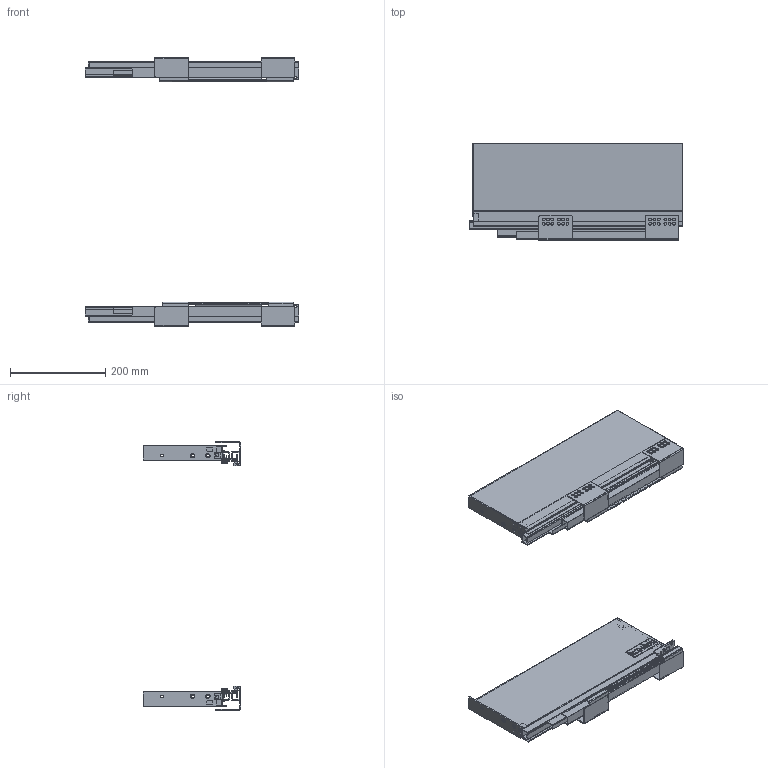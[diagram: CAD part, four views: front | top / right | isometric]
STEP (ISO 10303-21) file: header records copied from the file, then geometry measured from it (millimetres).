
FILE_DESCRIPTION(/* description */ (''),/* implementation_level */ '2;1');
FILE_NAME(/* name */ 'C:\Users\dmitruk\Documents\WORK\\X2\041D0410041F042004100412041B042F042E042904180415\X0\\SLIMBOX\SLIMBOX\SLIMBOX H175 L-450.stp',/* time_stamp */ '2022-04-19T17:18:37+03:00',/* author */ ('dmitruk'),/* organization */ ('AKS'),/* preprocessor_version */ 'ST-DEVELOPER v16.5',/* originating_system */ 'Autodesk Inventor 2017',/* authorisation */ '');
FILE_SCHEMA (('AUTOMOTIVE_DESIGN { 1 0 10303 214 3 1 1 }'));
Length unit declared in the file: millimetre
Products named in the file (13): SLIMBOX 90 мм правый; Боковина SLIMBOX _2; Направляющие \X2\0441043A
0440044B0442043E0433043E\X0\ монтажа \X2\043F
043E043B043D043E0433043E\X0\ \X2\0432044B04340432043804360435043D0438044F
\X0\ SLIMBOX-01; CR SLIMBOX-450; DR SLIMBOX; Крепление \X2\04440430
0441043004340430\X0\ SLIMBOX прав; CR SLIMBOX-500; DL SLIMBOX; Крепление \X2\04440430
0441043004340430\X0\ SLIMBOX лев; slim DW; Крепление к 
фасаду; Заглушка SLIMBOX; Крепление к 
фасаду 175
Assembly tree (16 placements, depth 3):
  SLIMBOX 90 мм правый
    Боковина SLIMBOX _2
    Направляющие \X2\0441043A
0440044B0442043E0433043E\X0\ монтажа \X2\043F
043E043B043D043E0433043E\X0\ \X2\0432044B04340432043804360435043D0438044F
\X0\ SLIMBOX-01
      CR SLIMBOX-450
      DR SLIMBOX
      slim DW  x2
      Крепление \X2\04440430
0441043004340430\X0\ SLIMBOX прав
      CR SLIMBOX-500
      DL SLIMBOX
      Крепление \X2\04440430
0441043004340430\X0\ SLIMBOX лев
    Крепление к 
фасаду  x2
    Заглушка SLIMBOX  x2
    Крепление к 
фасаду 175  x2
Bounding box: 450 x 204.5 x 564 mm (x, y, z)
Volume: 697348.2 mm3; surface area: 1052431.2 mm2
Topology: 37 solids, 37 shells, 1641 faces, 4458 edges, 2947 vertices
Faces by surface type: plane 1155, cylinder 434, cone 28, torus 24
Full cylindrical faces by diameter (mm): 3 x4, 3.8 x4, 4 x16, 4.8 x4, 6 x48, 7.603 x4, 7.801 x2, 8.085 x2, 10.37 x4, 11 x12, 12.231 x2
Entity records: 39654 total; most frequent: CARTESIAN_POINT 6765, ORIENTED_EDGE 6536, DIRECTION 6465, EDGE_CURVE 3268, LINE 2639, VECTOR 2639, VERTEX_POINT 2213, AXIS2_PLACEMENT_3D 1913
